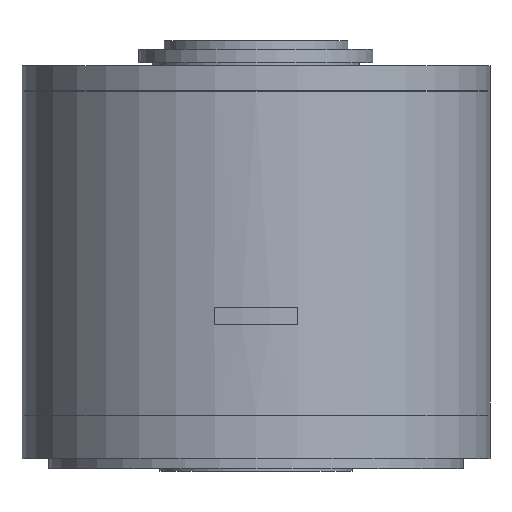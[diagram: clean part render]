
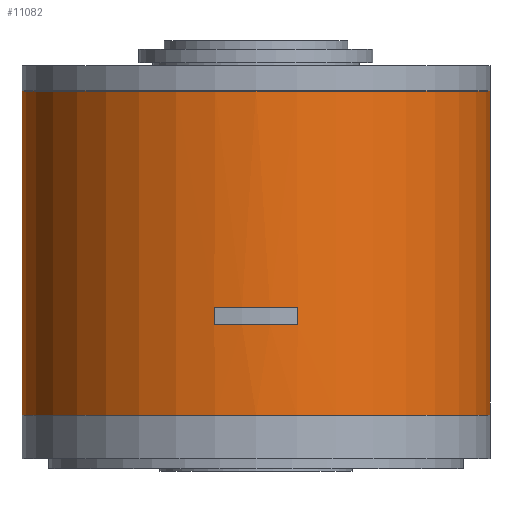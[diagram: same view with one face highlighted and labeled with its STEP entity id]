
A CAD part, front view. The second image highlights one B-rep face of the part: STEP entity #11082.
In plain terms, the highlighted cylindrical face has radius 140 mm (diameter 280 mm), a partial arc.
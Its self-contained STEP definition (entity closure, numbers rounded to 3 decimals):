
#352 = ORIENTED_EDGE ( 'NONE', *, *, #11625, .F. ) ;
#1062 = CARTESIAN_POINT ( 'NONE',  ( 0., 0., 26.1 ) ) ;
#1067 = DIRECTION ( 'NONE',  ( 0., 0., 1. ) ) ;
#1097 = DIRECTION ( 'NONE',  ( 0., 0., -1. ) ) ;
#1107 = CARTESIAN_POINT ( 'NONE',  ( 140., 0., 0. ) ) ;
#1178 = DIRECTION ( 'NONE',  ( -1., 0., 0. ) ) ;
#1210 = DIRECTION ( 'NONE',  ( 0., 0., -1. ) ) ;
#1214 = CARTESIAN_POINT ( 'NONE',  ( -25., -137.75, 0. ) ) ;
#1575 = CARTESIAN_POINT ( 'NONE',  ( 0., 0., 0. ) ) ;
#1579 = DIRECTION ( 'NONE',  ( 0., 0., 1. ) ) ;
#1580 = DIRECTION ( 'NONE',  ( 1., 0., 0. ) ) ;
#2346 = DIRECTION ( 'NONE',  ( 1., 0., 0. ) ) ;
#2610 = CARTESIAN_POINT ( 'NONE',  ( 0., 0., 80. ) ) ;
#2626 = DIRECTION ( 'NONE',  ( 0., 0., 1. ) ) ;
#2719 = ORIENTED_EDGE ( 'NONE', *, *, #11823, .T. ) ;
#2744 = ORIENTED_EDGE ( 'NONE', *, *, #11484, .F. ) ;
#2745 = ORIENTED_EDGE ( 'NONE', *, *, #11810, .F. ) ;
#2748 = ORIENTED_EDGE ( 'NONE', *, *, #11389, .F. ) ;
#2784 = ORIENTED_EDGE ( 'NONE', *, *, #11470, .F. ) ;
#2789 = ORIENTED_EDGE ( 'NONE', *, *, #11326, .F. ) ;
#2792 = ORIENTED_EDGE ( 'NONE', *, *, #11795, .F. ) ;
#2814 = EDGE_LOOP ( 'NONE', ( #2789, #2744, #2748, #2792 ) ) ;
#3142 = VERTEX_POINT ( 'NONE', #4073 ) ;
#3261 = VERTEX_POINT ( 'NONE', #3922 ) ;
#3330 = VERTEX_POINT ( 'NONE', #3734 ) ;
#3337 = VERTEX_POINT ( 'NONE', #3764 ) ;
#3338 = VERTEX_POINT ( 'NONE', #3763 ) ;
#3452 = VERTEX_POINT ( 'NONE', #3999 ) ;
#3593 = VERTEX_POINT ( 'NONE', #13639 ) ;
#3667 = VERTEX_POINT ( 'NONE', #13712 ) ;
#3734 = CARTESIAN_POINT ( 'NONE',  ( 25., -137.75, 90.5 ) ) ;
#3763 = CARTESIAN_POINT ( 'NONE',  ( -25., -137.75, 80. ) ) ;
#3764 = CARTESIAN_POINT ( 'NONE',  ( -25., -137.75, 90.5 ) ) ;
#3922 = CARTESIAN_POINT ( 'NONE',  ( 140., 0., 219.9 ) ) ;
#3999 = CARTESIAN_POINT ( 'NONE',  ( 140., 0., 26.1 ) ) ;
#4073 = CARTESIAN_POINT ( 'NONE',  ( -140., 0., 26.1 ) ) ;
#4243 = AXIS2_PLACEMENT_3D ( 'NONE', #7265, #7263, #7261 ) ;
#4294 = AXIS2_PLACEMENT_3D ( 'NONE', #2610, #2626, #2346 ) ;
#4335 = AXIS2_PLACEMENT_3D ( 'NONE', #8317, #8301, #8300 ) ;
#4488 = AXIS2_PLACEMENT_3D ( 'NONE', #1062, #1097, #1178 ) ;
#7261 = DIRECTION ( 'NONE',  ( -1., 0., 0. ) ) ;
#7263 = DIRECTION ( 'NONE',  ( 0., 0., -1. ) ) ;
#7265 = CARTESIAN_POINT ( 'NONE',  ( 0., 0., 90.5 ) ) ;
#7770 = CARTESIAN_POINT ( 'NONE',  ( -140., 0., 0. ) ) ;
#7775 = DIRECTION ( 'NONE',  ( 0., 0., 1. ) ) ;
#8121 = CARTESIAN_POINT ( 'NONE',  ( 25., -137.75, 0. ) ) ;
#8151 = DIRECTION ( 'NONE',  ( 0., 0., 1. ) ) ;
#8300 = DIRECTION ( 'NONE',  ( 1., 0., 0. ) ) ;
#8301 = DIRECTION ( 'NONE',  ( 0., 0., 1. ) ) ;
#8317 = CARTESIAN_POINT ( 'NONE',  ( 0., 0., 219.9 ) ) ;
#9021 = AXIS2_PLACEMENT_3D ( 'NONE', #1575, #1579, #1580 ) ;
#9323 = LINE ( 'NONE', #7770, #9324 ) ;
#9324 = VECTOR ( 'NONE', #7775, 1000. ) ;
#9456 = VECTOR ( 'NONE', #1210, 1000. ) ;
#9457 = LINE ( 'NONE', #1214, #9456 ) ;
#9481 = CIRCLE ( 'NONE', #4488, 140. ) ;
#9493 = LINE ( 'NONE', #1107, #9496 ) ;
#9496 = VECTOR ( 'NONE', #1067, 1000. ) ;
#9873 = EDGE_LOOP ( 'NONE', ( #352, #2745, #2719, #2784 ) ) ;
#11082 = ADVANCED_FACE ( 'NONE', ( #12658, #12660 ), #12655, .T. ) ;
#11326 = EDGE_CURVE ( 'NONE', #3330, #3337, #14884, .T. ) ;
#11389 = EDGE_CURVE ( 'NONE', #3338, #3593, #15202, .T. ) ;
#11470 = EDGE_CURVE ( 'NONE', #3667, #3261, #15304, .T. ) ;
#11484 = EDGE_CURVE ( 'NONE', #3593, #3330, #15318, .T. ) ;
#11625 = EDGE_CURVE ( 'NONE', #3142, #3667, #9323, .T. ) ;
#11795 = EDGE_CURVE ( 'NONE', #3337, #3338, #9457, .T. ) ;
#11810 = EDGE_CURVE ( 'NONE', #3452, #3142, #9481, .T. ) ;
#11823 = EDGE_CURVE ( 'NONE', #3452, #3261, #9493, .T. ) ;
#12655 = CYLINDRICAL_SURFACE ( 'NONE', #9021, 140. ) ;
#12658 = FACE_OUTER_BOUND ( 'NONE', #9873, .T. ) ;
#12660 = FACE_BOUND ( 'NONE', #2814, .T. ) ;
#13639 = CARTESIAN_POINT ( 'NONE',  ( 25., -137.75, 80. ) ) ;
#13712 = CARTESIAN_POINT ( 'NONE',  ( -140., 0., 219.9 ) ) ;
#14884 = CIRCLE ( 'NONE', #4243, 140. ) ;
#15202 = CIRCLE ( 'NONE', #4294, 140. ) ;
#15301 = VECTOR ( 'NONE', #8151, 1000. ) ;
#15304 = CIRCLE ( 'NONE', #4335, 140. ) ;
#15318 = LINE ( 'NONE', #8121, #15301 ) ;
